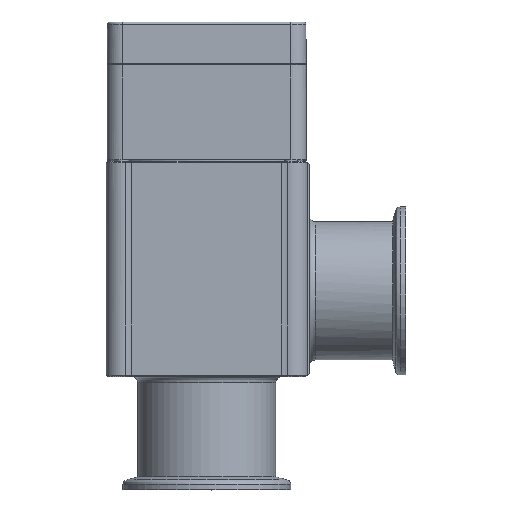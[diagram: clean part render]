
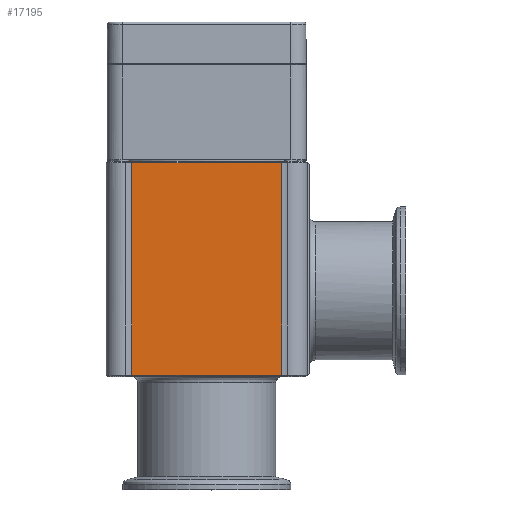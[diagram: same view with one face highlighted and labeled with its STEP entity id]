
A CAD part, top view. The second image highlights one B-rep face of the part: STEP entity #17195.
In plain terms, the highlighted free-form (B-spline) face has degree [1, 1] with [2, 2] control points.
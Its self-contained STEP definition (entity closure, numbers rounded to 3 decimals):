
#16919=CARTESIAN_POINT('V97',(-24.485,
   103.8,32.5));
#16920=VERTEX_POINT('V97',#16919);
#16963=CARTESIAN_POINT('V96',(24.485,103.8,
   32.5));
#16964=VERTEX_POINT('V96',#16963);
#16970=CARTESIAN_POINT('E128',(24.485,
   103.8,32.5));
#16971=CARTESIAN_POINT('E128',(-24.485,
   103.8,32.5));
#16972=B_SPLINE_CURVE_WITH_KNOTS('E128',1,(#16970,#16971),
   .POLYLINE_FORM.,.F.,.U.,(2,2),(2.0,88.568),
   .UNSPECIFIED.);
#16973=EDGE_CURVE('E128',#16964,#16920,#16972,.T.);
#17149=CARTESIAN_POINT('V95',(24.485,34.4,
   32.5));
#17150=VERTEX_POINT('V95',#17149);
#17164=CARTESIAN_POINT('E127',(24.485,34.4,
   32.5));
#17165=CARTESIAN_POINT('E127',(24.485,
   103.8,32.5));
#17166=B_SPLINE_CURVE_WITH_KNOTS('E127',1,(#17164,#17165),
   .POLYLINE_FORM.,.F.,.U.,(2,2),(2.202,
   37.19),.UNSPECIFIED.);
#17167=EDGE_CURVE('E127',#17150,#16964,#17166,.T.);
#17174=CARTESIAN_POINT('F42',(-25.742,33.,
   32.5));
#17175=CARTESIAN_POINT('F42',(25.742,33.,
   32.5));
#17176=CARTESIAN_POINT('F42',(-25.742,
   107.7,32.5));
#17177=CARTESIAN_POINT('F42',(25.742,107.7,
   32.5));
#17178=B_SPLINE_SURFACE_WITH_KNOTS('F42',1,1,((#17174,#17176),(
   #17175,#17177)),.PLANE_SURF.,.F.,.F.,.U.,(2,2),(2,2),(0.0,1.0),
   (0.699,2.15),.UNSPECIFIED.);
#17179=CARTESIAN_POINT('V94',(-24.485,34.4,
   32.5));
#17180=VERTEX_POINT('V94',#17179);
#17181=CARTESIAN_POINT('E126',(-24.485,
   34.4,32.5));
#17182=CARTESIAN_POINT('E126',(24.485,34.4,
   32.5));
#17183=B_SPLINE_CURVE_WITH_KNOTS('E126',1,(#17181,#17182),
   .POLYLINE_FORM.,.F.,.U.,(2,2),(2.0,88.568),
   .UNSPECIFIED.);
#17184=EDGE_CURVE('E126',#17180,#17150,#17183,.T.);
#17185=ORIENTED_EDGE('E126',*,*,#17184,.F.);
#17186=CARTESIAN_POINT('E129',(-24.485,
   103.8,32.5));
#17187=CARTESIAN_POINT('E129',(-24.485,
   34.4,32.5));
#17188=B_SPLINE_CURVE_WITH_KNOTS('E129',1,(#17186,#17187),
   .POLYLINE_FORM.,.F.,.U.,(2,2),(2.202,
   37.19),.UNSPECIFIED.);
#17189=EDGE_CURVE('E129',#16920,#17180,#17188,.T.);
#17190=ORIENTED_EDGE('E129',*,*,#17189,.F.);
#17191=ORIENTED_EDGE('E128',*,*,#16973,.F.);
#17192=ORIENTED_EDGE('E127',*,*,#17167,.F.);
#17193=EDGE_LOOP('F42',(#17185,#17190,#17191,#17192));
#17194=FACE_OUTER_BOUND('F42',#17193,.F.);
#17195=ADVANCED_FACE('F42',(#17194),#17178,.T.);
